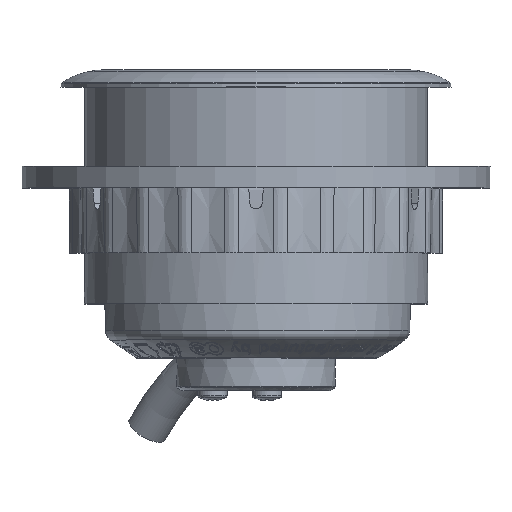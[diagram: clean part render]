
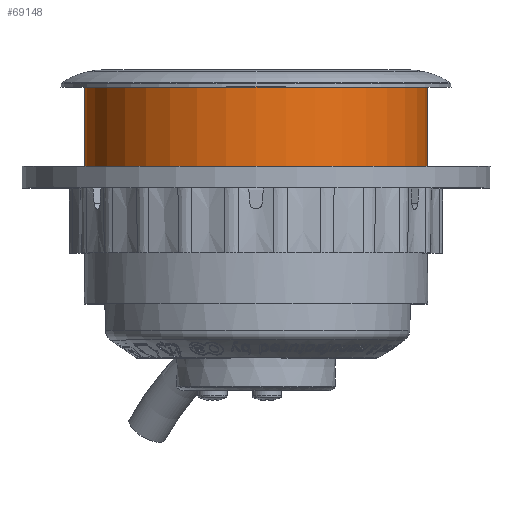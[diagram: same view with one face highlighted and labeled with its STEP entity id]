
A CAD part, top view. The second image highlights one B-rep face of the part: STEP entity #69148.
In plain terms, the highlighted cylindrical face has radius 39.6 mm (diameter 79.2 mm), a full revolution.
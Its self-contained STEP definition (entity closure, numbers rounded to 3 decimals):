
#1459=B_SPLINE_CURVE_WITH_KNOTS('',3,(#105165,#105166,#105167,#105168,#105169,
#105170,#105171,#105172,#105173,#105174,#105175,#105176,#105177,#105178,
#105179,#105180,#105181,#105182,#105183,#105184,#105185,#105186,#105187,
#105188,#105189,#105190,#105191,#105192),.UNSPECIFIED.,.F.,.F.,(4,2,2,2,
2,2,2,2,2,2,2,2,2,4),(0.586,0.76,0.934,
1.066,1.198,1.27,1.341,1.484,
1.648,1.811,1.974,2.137,2.267,
2.397),.UNSPECIFIED.);
#1460=B_SPLINE_CURVE_WITH_KNOTS('',3,(#105193,#105194,#105195,#105196,#105197,
#105198,#105199,#105200,#105201,#105202),.UNSPECIFIED.,.F.,.F.,(4,2,2,2,
4),(2.397,2.527,2.657,2.82,
2.983),.UNSPECIFIED.);
#1461=B_SPLINE_CURVE_WITH_KNOTS('',3,(#105205,#105206,#105207,#105208,#105209,
#105210,#105211,#105212,#105213,#105214,#105215,#105216,#105217,#105218,
#105219,#105220,#105221,#105222,#105223),.UNSPECIFIED.,.F.,.F.,(4,2,2,2,
3,2,2,2,4),(1.811,1.974,2.136,2.266,
2.396,2.526,2.657,2.819,2.982),
 .UNSPECIFIED.);
#1462=B_SPLINE_CURVE_WITH_KNOTS('',3,(#105224,#105225,#105226,#105227,#105228,
#105229,#105230,#105231,#105232,#105233,#105234,#105235,#105236,#105237,
#105238,#105239,#105240,#105241),.UNSPECIFIED.,.F.,.F.,(4,2,2,2,2,2,2,2,
4),(2.982,3.157,3.331,3.463,
3.595,3.727,3.858,4.033,4.207),
 .UNSPECIFIED.);
#4016=CYLINDRICAL_SURFACE('',#73905,39.6);
#4569=FACE_BOUND('',#10362,.T.);
#4570=FACE_BOUND('',#10363,.T.);
#6296=FACE_OUTER_BOUND('',#10361,.T.);
#10361=EDGE_LOOP('',(#50862,#50863,#50864,#50865));
#10362=EDGE_LOOP('',(#50866,#50867));
#10363=EDGE_LOOP('',(#50868,#50869));
#15695=LINE('',#105161,#20986);
#20986=VECTOR('',#84310,39.6);
#24727=CIRCLE('',#73906,39.6);
#24728=CIRCLE('',#73907,39.6);
#28998=VERTEX_POINT('',#105158);
#28999=VERTEX_POINT('',#105160);
#29000=VERTEX_POINT('',#105163);
#29001=VERTEX_POINT('',#105164);
#29002=VERTEX_POINT('',#105203);
#29003=VERTEX_POINT('',#105204);
#37000=EDGE_CURVE('',#28998,#28998,#24727,.F.);
#37001=EDGE_CURVE('',#28998,#28999,#15695,.T.);
#37002=EDGE_CURVE('',#28999,#28999,#24728,.T.);
#37003=EDGE_CURVE('',#29000,#29001,#1459,.T.);
#37004=EDGE_CURVE('',#29001,#29000,#1460,.T.);
#37005=EDGE_CURVE('',#29002,#29003,#1461,.T.);
#37006=EDGE_CURVE('',#29003,#29002,#1462,.T.);
#50862=ORIENTED_EDGE('',*,*,#37000,.F.);
#50863=ORIENTED_EDGE('',*,*,#37001,.T.);
#50864=ORIENTED_EDGE('',*,*,#37002,.F.);
#50865=ORIENTED_EDGE('',*,*,#37001,.F.);
#50866=ORIENTED_EDGE('',*,*,#37003,.F.);
#50867=ORIENTED_EDGE('',*,*,#37004,.F.);
#50868=ORIENTED_EDGE('',*,*,#37005,.F.);
#50869=ORIENTED_EDGE('',*,*,#37006,.F.);
#69148=ADVANCED_FACE('',(#6296,#4569,#4570),#4016,.T.);
#73905=AXIS2_PLACEMENT_3D('',#105157,#84306,#84307);
#73906=AXIS2_PLACEMENT_3D('',#105159,#84308,#84309);
#73907=AXIS2_PLACEMENT_3D('',#105162,#84311,#84312);
#84306=DIRECTION('center_axis',(0.,-1.,0.));
#84307=DIRECTION('ref_axis',(-1.,0.,0.));
#84308=DIRECTION('center_axis',(0.,1.,0.));
#84309=DIRECTION('ref_axis',(0.,0.,1.));
#84310=DIRECTION('',(0.,1.,0.));
#84311=DIRECTION('center_axis',(0.,1.,0.));
#84312=DIRECTION('ref_axis',(1.,0.,0.));
#105157=CARTESIAN_POINT('Origin',(0.,0.,0.));
#105158=CARTESIAN_POINT('',(39.6,-19.25,0.));
#105159=CARTESIAN_POINT('Origin',(0.,-19.25,0.));
#105160=CARTESIAN_POINT('',(39.6,-1.,0.));
#105161=CARTESIAN_POINT('',(39.6,0.,0.));
#105162=CARTESIAN_POINT('Origin',(0.,-1.,0.));
#105163=CARTESIAN_POINT('',(31.499,-9.,-24.));
#105164=CARTESIAN_POINT('',(33.881,-5.5,-20.5));
#105165=CARTESIAN_POINT('Ctrl Pts',(31.499,-9.,-24.));
#105166=CARTESIAN_POINT('Ctrl Pts',(31.146,-9.,
-24.462));
#105167=CARTESIAN_POINT('Ctrl Pts',(30.756,-8.904,
-24.952));
#105168=CARTESIAN_POINT('Ctrl Pts',(30.,-8.508,
-25.856));
#105169=CARTESIAN_POINT('Ctrl Pts',(29.634,-8.209,
-26.271));
#105170=CARTESIAN_POINT('Ctrl Pts',(29.105,-7.559,-26.855));
#105171=CARTESIAN_POINT('Ctrl Pts',(28.886,-7.202,
-27.089));
#105172=CARTESIAN_POINT('Ctrl Pts',(28.579,-6.393,
-27.412));
#105173=CARTESIAN_POINT('Ctrl Pts',(28.494,-5.94,
-27.5));
#105174=CARTESIAN_POINT('Ctrl Pts',(28.494,-5.262,
-27.5));
#105175=CARTESIAN_POINT('Ctrl Pts',(28.518,-5.02,
-27.475));
#105176=CARTESIAN_POINT('Ctrl Pts',(28.612,-4.551,
-27.378));
#105177=CARTESIAN_POINT('Ctrl Pts',(28.682,-4.323,-27.305));
#105178=CARTESIAN_POINT('Ctrl Pts',(28.945,-3.681,-27.027));
#105179=CARTESIAN_POINT('Ctrl Pts',(29.193,-3.31,
-26.759));
#105180=CARTESIAN_POINT('Ctrl Pts',(29.741,-2.7,-26.15));
#105181=CARTESIAN_POINT('Ctrl Pts',(30.089,-2.435,
-25.752));
#105182=CARTESIAN_POINT('Ctrl Pts',(30.802,-2.084,
-24.893));
#105183=CARTESIAN_POINT('Ctrl Pts',(31.169,-2.,
-24.433));
#105184=CARTESIAN_POINT('Ctrl Pts',(31.828,-2.,
-23.568));
#105185=CARTESIAN_POINT('Ctrl Pts',(32.173,-2.084,
-23.094));
#105186=CARTESIAN_POINT('Ctrl Pts',(32.799,-2.461,
-22.197));
#105187=CARTESIAN_POINT('Ctrl Pts',(33.079,-2.754,
-21.774));
#105188=CARTESIAN_POINT('Ctrl Pts',(33.471,-3.409,
-21.165));
#105189=CARTESIAN_POINT('Ctrl Pts',(33.624,-3.781,
-20.919));
#105190=CARTESIAN_POINT('Ctrl Pts',(33.829,-4.61,-20.586));
#105191=CARTESIAN_POINT('Ctrl Pts',(33.881,-5.067,-20.5));
#105192=CARTESIAN_POINT('Ctrl Pts',(33.881,-5.5,
-20.5));
#105193=CARTESIAN_POINT('Ctrl Pts',(33.881,-5.5,
-20.5));
#105194=CARTESIAN_POINT('Ctrl Pts',(33.881,-5.933,
-20.5));
#105195=CARTESIAN_POINT('Ctrl Pts',(33.829,-6.39,-20.586));
#105196=CARTESIAN_POINT('Ctrl Pts',(33.624,-7.219,
-20.919));
#105197=CARTESIAN_POINT('Ctrl Pts',(33.471,-7.591,
-21.165));
#105198=CARTESIAN_POINT('Ctrl Pts',(33.079,-8.246,
-21.774));
#105199=CARTESIAN_POINT('Ctrl Pts',(32.799,-8.539,
-22.197));
#105200=CARTESIAN_POINT('Ctrl Pts',(32.173,-8.916,-23.094));
#105201=CARTESIAN_POINT('Ctrl Pts',(31.828,-9.,
-23.568));
#105202=CARTESIAN_POINT('Ctrl Pts',(31.499,-9.,-24.));
#105203=CARTESIAN_POINT('',(-31.499,-9.,-24.));
#105204=CARTESIAN_POINT('',(-31.499,-2.,-24.));
#105205=CARTESIAN_POINT('Ctrl Pts',(-31.499,-9.,
-24.));
#105206=CARTESIAN_POINT('Ctrl Pts',(-31.828,-9.,
-23.568));
#105207=CARTESIAN_POINT('Ctrl Pts',(-32.173,-8.916,
-23.094));
#105208=CARTESIAN_POINT('Ctrl Pts',(-32.799,-8.539,
-22.197));
#105209=CARTESIAN_POINT('Ctrl Pts',(-33.079,-8.246,
-21.774));
#105210=CARTESIAN_POINT('Ctrl Pts',(-33.471,-7.591,
-21.165));
#105211=CARTESIAN_POINT('Ctrl Pts',(-33.624,-7.219,
-20.919));
#105212=CARTESIAN_POINT('Ctrl Pts',(-33.829,-6.39,
-20.586));
#105213=CARTESIAN_POINT('Ctrl Pts',(-33.881,-5.933,
-20.5));
#105214=CARTESIAN_POINT('Ctrl Pts',(-33.881,-5.5,
-20.5));
#105215=CARTESIAN_POINT('Ctrl Pts',(-33.881,-5.067,
-20.5));
#105216=CARTESIAN_POINT('Ctrl Pts',(-33.829,-4.61,
-20.586));
#105217=CARTESIAN_POINT('Ctrl Pts',(-33.624,-3.781,
-20.919));
#105218=CARTESIAN_POINT('Ctrl Pts',(-33.471,-3.409,
-21.165));
#105219=CARTESIAN_POINT('Ctrl Pts',(-33.079,-2.754,
-21.774));
#105220=CARTESIAN_POINT('Ctrl Pts',(-32.799,-2.461,
-22.197));
#105221=CARTESIAN_POINT('Ctrl Pts',(-32.173,-2.084,
-23.094));
#105222=CARTESIAN_POINT('Ctrl Pts',(-31.828,-2.,
-23.568));
#105223=CARTESIAN_POINT('Ctrl Pts',(-31.499,-2.,
-24.));
#105224=CARTESIAN_POINT('Ctrl Pts',(-31.499,-2.,
-24.));
#105225=CARTESIAN_POINT('Ctrl Pts',(-31.146,-2.,
-24.462));
#105226=CARTESIAN_POINT('Ctrl Pts',(-30.756,-2.096,
-24.952));
#105227=CARTESIAN_POINT('Ctrl Pts',(-30.,-2.492,
-25.856));
#105228=CARTESIAN_POINT('Ctrl Pts',(-29.634,-2.791,
-26.271));
#105229=CARTESIAN_POINT('Ctrl Pts',(-29.105,-3.441,
-26.855));
#105230=CARTESIAN_POINT('Ctrl Pts',(-28.886,-3.798,
-27.089));
#105231=CARTESIAN_POINT('Ctrl Pts',(-28.579,-4.607,
-27.412));
#105232=CARTESIAN_POINT('Ctrl Pts',(-28.494,-5.06,
-27.5));
#105233=CARTESIAN_POINT('Ctrl Pts',(-28.494,-5.94,
-27.5));
#105234=CARTESIAN_POINT('Ctrl Pts',(-28.579,-6.393,
-27.412));
#105235=CARTESIAN_POINT('Ctrl Pts',(-28.886,-7.202,
-27.089));
#105236=CARTESIAN_POINT('Ctrl Pts',(-29.105,-7.559,
-26.855));
#105237=CARTESIAN_POINT('Ctrl Pts',(-29.634,-8.209,
-26.271));
#105238=CARTESIAN_POINT('Ctrl Pts',(-30.,-8.508,
-25.856));
#105239=CARTESIAN_POINT('Ctrl Pts',(-30.756,-8.904,
-24.952));
#105240=CARTESIAN_POINT('Ctrl Pts',(-31.146,-9.,
-24.462));
#105241=CARTESIAN_POINT('Ctrl Pts',(-31.499,-9.,
-24.));
